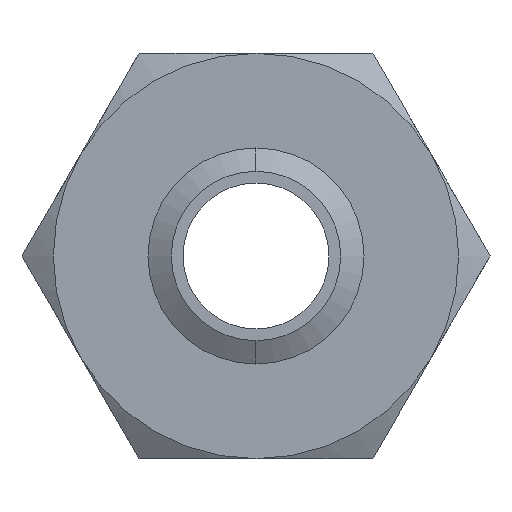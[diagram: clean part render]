
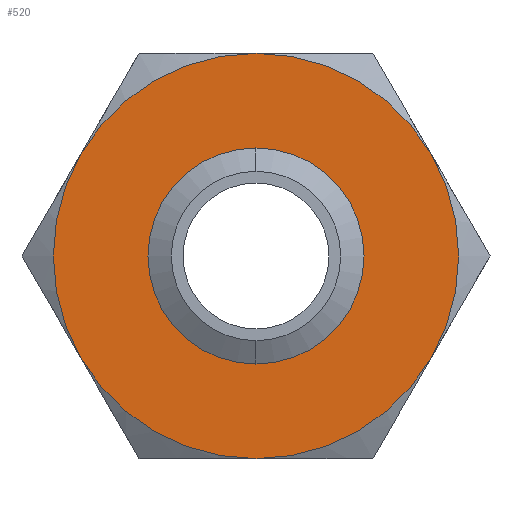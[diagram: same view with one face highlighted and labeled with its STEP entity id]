
A CAD part, front view. The second image highlights one B-rep face of the part: STEP entity #520.
In plain terms, the highlighted planar face has unit normal (0, -1, 0).
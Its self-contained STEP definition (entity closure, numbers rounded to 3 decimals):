
#229 = ORIENTED_EDGE ( 'NONE', *, *, #230, .F. ) ;
#230 = EDGE_CURVE ( 'NONE', #359, #358, #972, .T. ) ;
#231 = ORIENTED_EDGE ( 'NONE', *, *, #232, .F. ) ;
#232 = EDGE_CURVE ( 'NONE', #281, #280, #967, .T. ) ;
#233 = ORIENTED_EDGE ( 'NONE', *, *, #357, .F. ) ;
#234 = EDGE_LOOP ( 'NONE', ( #233, #229 ) ) ;
#280 = VERTEX_POINT ( 'NONE', #1055 ) ;
#281 = VERTEX_POINT ( 'NONE', #1051 ) ;
#357 = EDGE_CURVE ( 'NONE', #358, #359, #1157, .T. ) ;
#358 = VERTEX_POINT ( 'NONE', #1216 ) ;
#359 = VERTEX_POINT ( 'NONE', #1215 ) ;
#520 = ADVANCED_FACE ( 'NONE', ( #1525, #1524 ), #1523, .F. ) ;
#521 = EDGE_LOOP ( 'NONE', ( #522, #2030, #2029, #2035, #2036, #231 ) ) ;
#522 = ORIENTED_EDGE ( 'NONE', *, *, #523, .F. ) ;
#523 = EDGE_CURVE ( 'NONE', #524, #281, #1517, .T. ) ;
#524 = VERTEX_POINT ( 'NONE', #1513 ) ;
#963 = DIRECTION ( 'NONE',  ( 0., 0., 1. ) ) ;
#964 = DIRECTION ( 'NONE',  ( 0., 1., 0. ) ) ;
#965 = CARTESIAN_POINT ( 'NONE',  ( 0., 0., 0. ) ) ;
#966 = AXIS2_PLACEMENT_3D ( 'NONE', #965, #964, #963 ) ;
#967 = CIRCLE ( 'NONE', #966, 37.5 ) ;
#968 = DIRECTION ( 'NONE',  ( 0., 0., -1. ) ) ;
#969 = DIRECTION ( 'NONE',  ( 0., -1., 0. ) ) ;
#970 = CARTESIAN_POINT ( 'NONE',  ( 0., 0., 0. ) ) ;
#971 = AXIS2_PLACEMENT_3D ( 'NONE', #970, #969, #968 ) ;
#972 = CIRCLE ( 'NONE', #971, 15.67 ) ;
#1051 = CARTESIAN_POINT ( 'NONE',  ( 32.476, 0., 18.75 ) ) ;
#1055 = CARTESIAN_POINT ( 'NONE',  ( 32.476, 0., -18.75 ) ) ;
#1157 = CIRCLE ( 'NONE', #1219, 15.67 ) ;
#1158 = CARTESIAN_POINT ( 'NONE',  ( 0., 0., 0. ) ) ;
#1215 = CARTESIAN_POINT ( 'NONE',  ( 0., 0., 15.67 ) ) ;
#1216 = CARTESIAN_POINT ( 'NONE',  ( 0., 0., -15.67 ) ) ;
#1217 = DIRECTION ( 'NONE',  ( 0., 0., -1. ) ) ;
#1218 = DIRECTION ( 'NONE',  ( 0., -1., 0. ) ) ;
#1219 = AXIS2_PLACEMENT_3D ( 'NONE', #1158, #1218, #1217 ) ;
#1513 = CARTESIAN_POINT ( 'NONE',  ( 0., 0., 37.5 ) ) ;
#1514 = DIRECTION ( 'NONE',  ( 0., 0., 1. ) ) ;
#1515 = DIRECTION ( 'NONE',  ( 0., 1., 0. ) ) ;
#1516 = AXIS2_PLACEMENT_3D ( 'NONE', #1520, #1515, #1514 ) ;
#1517 = CIRCLE ( 'NONE', #1516, 37.5 ) ;
#1518 = DIRECTION ( 'NONE',  ( 0., 0., 1. ) ) ;
#1519 = DIRECTION ( 'NONE',  ( 0., 1., 0. ) ) ;
#1520 = CARTESIAN_POINT ( 'NONE',  ( 0., 0., 0. ) ) ;
#1521 = CARTESIAN_POINT ( 'NONE',  ( 21.651, 0., -37.5 ) ) ;
#1522 = AXIS2_PLACEMENT_3D ( 'NONE', #1521, #1519, #1518 ) ;
#1523 = PLANE ( 'NONE',  #1522 ) ;
#1524 = FACE_BOUND ( 'NONE', #234, .T. ) ;
#1525 = FACE_OUTER_BOUND ( 'NONE', #521, .T. ) ;
#1763 = CARTESIAN_POINT ( 'NONE',  ( 0., 0., 0. ) ) ;
#1764 = AXIS2_PLACEMENT_3D ( 'NONE', #1763, #1815, #1814 ) ;
#1765 = CIRCLE ( 'NONE', #1764, 37.5 ) ;
#1766 = DIRECTION ( 'NONE',  ( 0., 0., 1. ) ) ;
#1767 = DIRECTION ( 'NONE',  ( 0., 1., 0. ) ) ;
#1768 = CARTESIAN_POINT ( 'NONE',  ( 0., 0., 0. ) ) ;
#1769 = AXIS2_PLACEMENT_3D ( 'NONE', #1768, #1767, #1766 ) ;
#1770 = CIRCLE ( 'NONE', #1769, 37.5 ) ;
#1771 = DIRECTION ( 'NONE',  ( 0., 0., 1. ) ) ;
#1772 = DIRECTION ( 'NONE',  ( 0., 1., 0. ) ) ;
#1773 = CARTESIAN_POINT ( 'NONE',  ( 0., 0., 0. ) ) ;
#1774 = AXIS2_PLACEMENT_3D ( 'NONE', #1773, #1772, #1771 ) ;
#1775 = CIRCLE ( 'NONE', #1774, 37.5 ) ;
#1776 = CARTESIAN_POINT ( 'NONE',  ( -32.476, 0., -18.75 ) ) ;
#1777 = DIRECTION ( 'NONE',  ( 0., 0., 1. ) ) ;
#1778 = DIRECTION ( 'NONE',  ( 0., 1., 0. ) ) ;
#1779 = CARTESIAN_POINT ( 'NONE',  ( 0., 0., 0. ) ) ;
#1780 = AXIS2_PLACEMENT_3D ( 'NONE', #1779, #1778, #1777 ) ;
#1781 = CIRCLE ( 'NONE', #1780, 37.5 ) ;
#1782 = CARTESIAN_POINT ( 'NONE',  ( -32.476, 0., 18.75 ) ) ;
#1787 = CARTESIAN_POINT ( 'NONE',  ( 0., 0., -37.5 ) ) ;
#1814 = DIRECTION ( 'NONE',  ( 0., 0., 1. ) ) ;
#1815 = DIRECTION ( 'NONE',  ( 0., 1., 0. ) ) ;
#2026 = VERTEX_POINT ( 'NONE', #1787 ) ;
#2027 = VERTEX_POINT ( 'NONE', #1782 ) ;
#2028 = EDGE_CURVE ( 'NONE', #2027, #524, #1781, .T. ) ;
#2029 = ORIENTED_EDGE ( 'NONE', *, *, #2038, .F. ) ;
#2030 = ORIENTED_EDGE ( 'NONE', *, *, #2028, .F. ) ;
#2032 = EDGE_CURVE ( 'NONE', #2026, #2033, #1775, .T. ) ;
#2033 = VERTEX_POINT ( 'NONE', #1776 ) ;
#2034 = EDGE_CURVE ( 'NONE', #280, #2026, #1770, .T. ) ;
#2035 = ORIENTED_EDGE ( 'NONE', *, *, #2032, .F. ) ;
#2036 = ORIENTED_EDGE ( 'NONE', *, *, #2034, .F. ) ;
#2038 = EDGE_CURVE ( 'NONE', #2033, #2027, #1765, .T. ) ;
